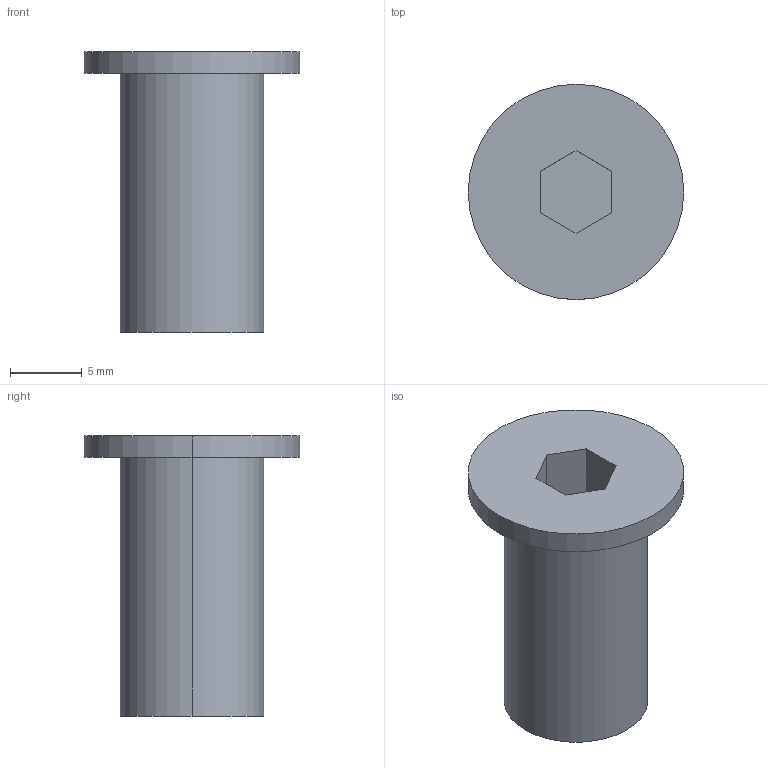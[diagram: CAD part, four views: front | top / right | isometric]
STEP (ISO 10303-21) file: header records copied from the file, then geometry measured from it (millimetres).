
FILE_DESCRIPTION (( 'STEP AP214' ), '1' );
FILE_NAME ('EXTRA_LOW_HEAD_CAP_BOLT_M10(2)(L=018).STEP', '2021-09-19T02:22:36', ( '' ), ( '' ), 'SwSTEP 2.0', 'SolidWorks 2018', '' );
FILE_SCHEMA (( 'AUTOMOTIVE_DESIGN' ));
Length unit declared in the file: millimetre
Products named in the file (1): EXTRA_LOW_HEAD_CAP_BOLT_M10(2)(L=018)
Bounding box: 15 x 15 x 19.5 mm (x, y, z)
Volume: 1548.9 mm3; surface area: 1093.5 mm2
Topology: 1 solids, 1 shells, 14 faces, 30 edges, 20 vertices
Faces by surface type: plane 10, cylinder 4
Entity records: 416 total; most frequent: DIRECTION 68, CARTESIAN_POINT 65, ORIENTED_EDGE 60, EDGE_CURVE 30, AXIS2_PLACEMENT_3D 23, LINE 22, VECTOR 22, VERTEX_POINT 20
